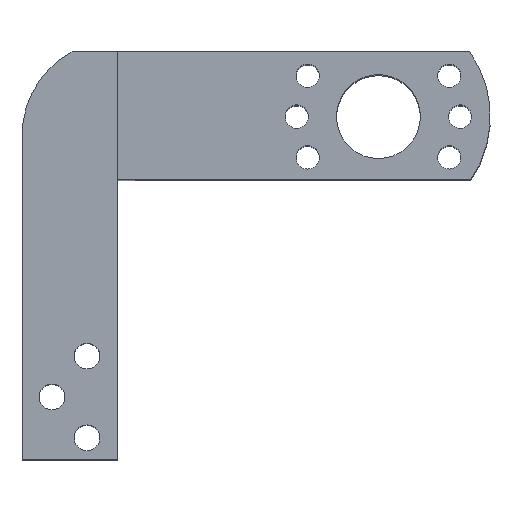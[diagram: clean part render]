
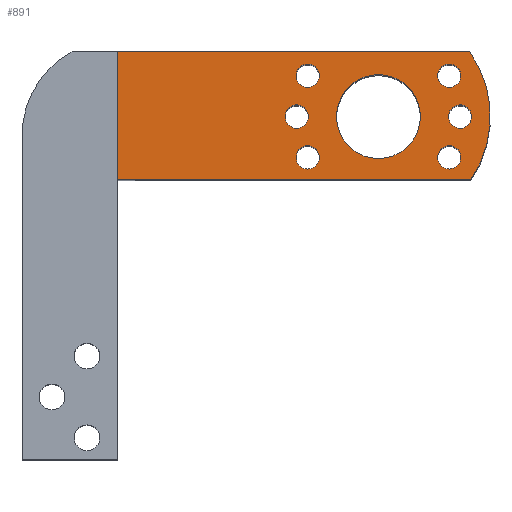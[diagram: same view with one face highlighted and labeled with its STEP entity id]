
A CAD part, top view. The second image highlights one B-rep face of the part: STEP entity #891.
In plain terms, the highlighted planar face has unit normal (0, 0, 1).
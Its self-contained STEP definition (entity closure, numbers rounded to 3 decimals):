
#31=FACE_BOUND('',#154,.T.);
#32=FACE_BOUND('',#155,.T.);
#33=FACE_BOUND('',#156,.T.);
#34=FACE_BOUND('',#157,.T.);
#35=FACE_BOUND('',#158,.T.);
#36=FACE_BOUND('',#159,.T.);
#37=FACE_BOUND('',#160,.T.);
#72=PLANE('',#966);
#97=FACE_OUTER_BOUND('',#153,.T.);
#153=EDGE_LOOP('',(#717,#718,#719,#720));
#154=EDGE_LOOP('',(#721));
#155=EDGE_LOOP('',(#722));
#156=EDGE_LOOP('',(#723));
#157=EDGE_LOOP('',(#724));
#158=EDGE_LOOP('',(#725));
#159=EDGE_LOOP('',(#726));
#160=EDGE_LOOP('',(#727));
#223=LINE('',#1347,#297);
#249=LINE('',#1409,#323);
#258=LINE('',#1427,#332);
#297=VECTOR('',#1075,10.);
#323=VECTOR('',#1133,10.);
#332=VECTOR('',#1146,10.);
#371=CIRCLE('',#967,9.6);
#372=CIRCLE('',#968,1.);
#373=CIRCLE('',#969,1.);
#374=CIRCLE('',#970,1.);
#375=CIRCLE('',#971,1.);
#376=CIRCLE('',#972,1.);
#377=CIRCLE('',#973,1.);
#378=CIRCLE('',#974,3.6);
#426=VERTEX_POINT('',#1344);
#427=VERTEX_POINT('',#1346);
#447=VERTEX_POINT('',#1407);
#454=VERTEX_POINT('',#1425);
#455=VERTEX_POINT('',#1434);
#456=VERTEX_POINT('',#1436);
#457=VERTEX_POINT('',#1438);
#458=VERTEX_POINT('',#1440);
#459=VERTEX_POINT('',#1442);
#460=VERTEX_POINT('',#1444);
#461=VERTEX_POINT('',#1446);
#509=EDGE_CURVE('',#426,#427,#223,.T.);
#541=EDGE_CURVE('',#426,#447,#249,.T.);
#550=EDGE_CURVE('',#447,#454,#258,.T.);
#554=EDGE_CURVE('',#454,#427,#371,.T.);
#555=EDGE_CURVE('',#455,#455,#372,.T.);
#556=EDGE_CURVE('',#456,#456,#373,.T.);
#557=EDGE_CURVE('',#457,#457,#374,.T.);
#558=EDGE_CURVE('',#458,#458,#375,.T.);
#559=EDGE_CURVE('',#459,#459,#376,.T.);
#560=EDGE_CURVE('',#460,#460,#377,.T.);
#561=EDGE_CURVE('',#461,#461,#378,.T.);
#717=ORIENTED_EDGE('',*,*,#554,.T.);
#718=ORIENTED_EDGE('',*,*,#509,.F.);
#719=ORIENTED_EDGE('',*,*,#541,.T.);
#720=ORIENTED_EDGE('',*,*,#550,.T.);
#721=ORIENTED_EDGE('',*,*,#555,.T.);
#722=ORIENTED_EDGE('',*,*,#556,.T.);
#723=ORIENTED_EDGE('',*,*,#557,.T.);
#724=ORIENTED_EDGE('',*,*,#558,.T.);
#725=ORIENTED_EDGE('',*,*,#559,.T.);
#726=ORIENTED_EDGE('',*,*,#560,.T.);
#727=ORIENTED_EDGE('',*,*,#561,.T.);
#891=ADVANCED_FACE('',(#97,#31,#32,#33,#34,#35,#36,#37),#72,.T.);
#966=AXIS2_PLACEMENT_3D('',#1432,#1152,#1153);
#967=AXIS2_PLACEMENT_3D('',#1433,#1154,#1155);
#968=AXIS2_PLACEMENT_3D('',#1435,#1156,#1157);
#969=AXIS2_PLACEMENT_3D('',#1437,#1158,#1159);
#970=AXIS2_PLACEMENT_3D('',#1439,#1160,#1161);
#971=AXIS2_PLACEMENT_3D('',#1441,#1162,#1163);
#972=AXIS2_PLACEMENT_3D('',#1443,#1164,#1165);
#973=AXIS2_PLACEMENT_3D('',#1445,#1166,#1167);
#974=AXIS2_PLACEMENT_3D('',#1447,#1168,#1169);
#1075=DIRECTION('',(1.,0.,0.));
#1133=DIRECTION('',(0.,-1.,0.));
#1146=DIRECTION('',(1.,0.,0.));
#1152=DIRECTION('center_axis',(0.,0.,
1.));
#1153=DIRECTION('ref_axis',(0.,-1.,0.));
#1154=DIRECTION('center_axis',(0.,0.,
1.));
#1155=DIRECTION('ref_axis',(0.825,-0.566,0.));
#1156=DIRECTION('center_axis',(0.,0.,
-1.));
#1157=DIRECTION('ref_axis',(0.5,-0.866,0.));
#1158=DIRECTION('center_axis',(0.,0.,
-1.));
#1159=DIRECTION('ref_axis',(1.,0.,0.));
#1160=DIRECTION('center_axis',(0.,0.,
-1.));
#1161=DIRECTION('ref_axis',(0.866,0.5,0.));
#1162=DIRECTION('center_axis',(0.,0.,
-1.));
#1163=DIRECTION('ref_axis',(1.,0.,0.));
#1164=DIRECTION('center_axis',(0.,0.,
-1.));
#1165=DIRECTION('ref_axis',(0.5,-0.866,0.));
#1166=DIRECTION('center_axis',(0.,0.,
-1.));
#1167=DIRECTION('ref_axis',(0.866,0.5,0.));
#1168=DIRECTION('center_axis',(0.,0.,
-1.));
#1169=DIRECTION('ref_axis',(1.,0.,0.));
#1344=CARTESIAN_POINT('',(-42.411,52.097,-7.55));
#1346=CARTESIAN_POINT('',(-12.181,52.097,-7.55));
#1347=CARTESIAN_POINT('',(-15.,52.097,-7.55));
#1407=CARTESIAN_POINT('',(-42.411,41.097,-7.55));
#1409=CARTESIAN_POINT('',(-42.411,46.597,-7.55));
#1425=CARTESIAN_POINT('',(-12.083,41.097,-7.55));
#1427=CARTESIAN_POINT('',(-41.661,41.097,-7.55));
#1432=CARTESIAN_POINT('Origin',(-41.661,46.597,-7.55));
#1433=CARTESIAN_POINT('Origin',(-20.,46.527,-7.55));
#1434=CARTESIAN_POINT('',(-14.438,43.893,-7.55));
#1435=CARTESIAN_POINT('Origin',(-13.938,43.027,-7.55));
#1436=CARTESIAN_POINT('',(-28.,46.527,-7.55));
#1437=CARTESIAN_POINT('Origin',(-27.,46.527,-7.55));
#1438=CARTESIAN_POINT('',(-26.928,42.527,-7.55));
#1439=CARTESIAN_POINT('Origin',(-26.062,43.027,-7.55));
#1440=CARTESIAN_POINT('',(-14.,46.527,-7.55));
#1441=CARTESIAN_POINT('Origin',(-13.,46.527,-7.55));
#1442=CARTESIAN_POINT('',(-26.562,50.893,-7.55));
#1443=CARTESIAN_POINT('Origin',(-26.062,50.027,-7.55));
#1444=CARTESIAN_POINT('',(-14.804,49.527,-7.55));
#1445=CARTESIAN_POINT('Origin',(-13.938,50.027,-7.55));
#1446=CARTESIAN_POINT('',(-23.6,46.527,-7.55));
#1447=CARTESIAN_POINT('Origin',(-20.,46.527,-7.55));
